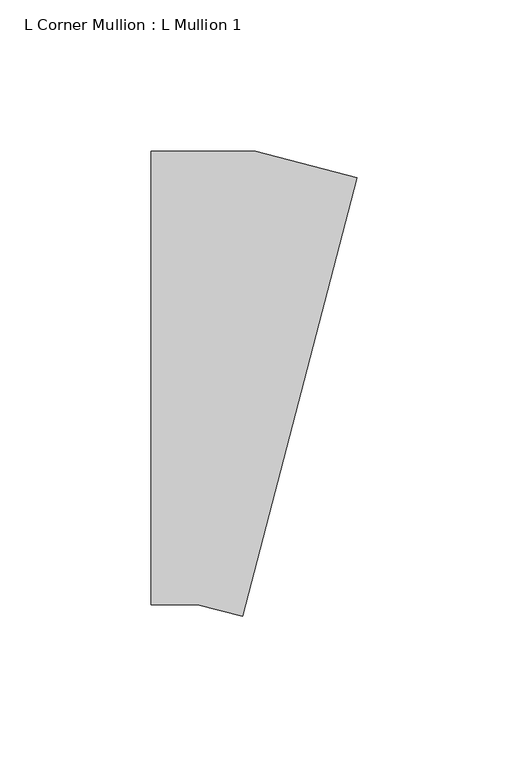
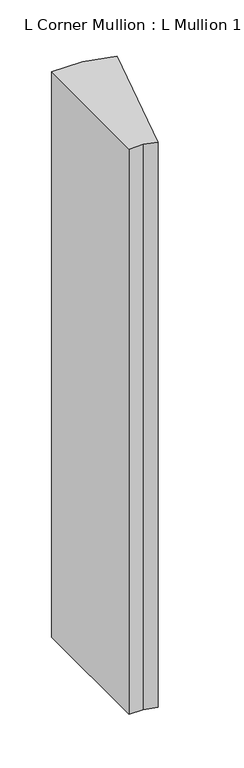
"""IFC4 building model written with IfcOpenShell, lengths in millimetres: member geometry, L Corner Mullion : L Mullion 1."""

from ifc_helpers import new_model, si_unit, frame, origin, place, context, project, spatial, polyline, outline, extrude, source, transform, mapped, element, save


def l_corner_mullion_l_mullion_1_f754a305(model_context):
    return source(origin(), model_context, "Body", "SweptSolid", [
        extrude(outline(polyline([(5.2473906, -78.882602), (-9.6271163, -75.0), (-25.0, -75.0), (-25.0, 75.0), (9.6271163, 75.0), (43.1316487, 66.2545159), (5.2473906, -78.882602)])), frame((0.0, 0.0, -666.928065), z_axis=(0.0, 0.0, 1.0), x_axis=(1.0, 0.0, 0.0)), (0.0, 0.0, 1.0), 666.928065),
    ])


if __name__ == "__main__":
    model = new_model("IFC4")
    model_context = context("Model", 3, world=origin())
    ifc_project = project(units=[si_unit("LENGTHUNIT", "METRE", prefix="MILLI")], contexts=[model_context])
    site = spatial("IfcSite", under=ifc_project)
    building = spatial("IfcBuilding", under=site)
    placement = place(None, origin())
    l_corner_mullion_l_mullion_1_shape = l_corner_mullion_l_mullion_1_f754a305(model_context)
    element("IfcMember", 1, ObjectType="L Corner Mullion : L Mullion 1", at=placement, inside=building, context=model_context, shape_type="MappedRepresentation", body=[
        mapped(l_corner_mullion_l_mullion_1_shape, transform((0.0, 0.0, 0.0), x_axis=(1.0, 0.0, 0.0), y_axis=(0.0, 1.0, 0.0), z_axis=(0.0, 0.0, 1.0))),
    ])
    save(model, "model.ifc")
